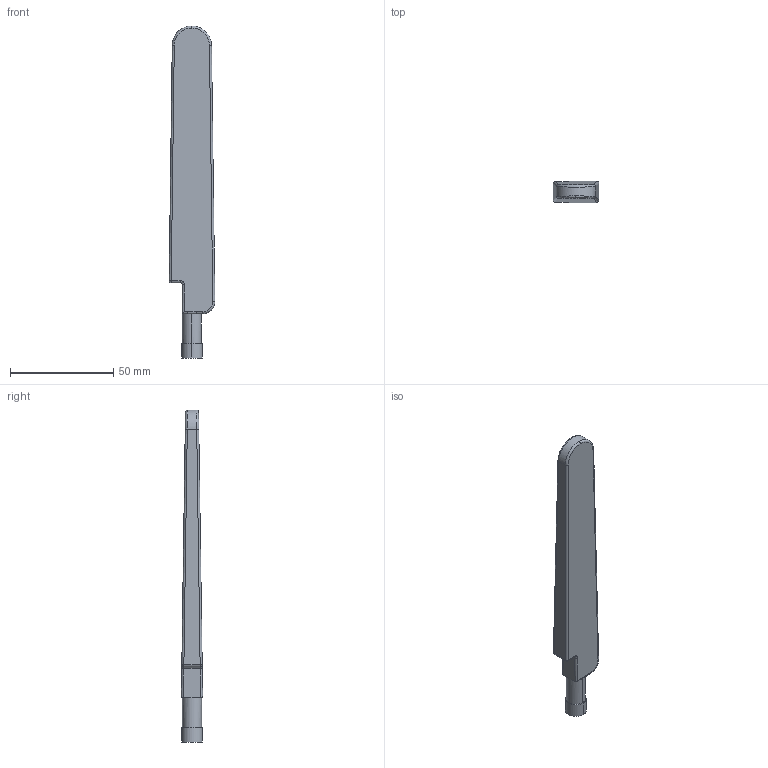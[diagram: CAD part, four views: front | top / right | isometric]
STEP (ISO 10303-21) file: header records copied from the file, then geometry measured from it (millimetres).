
FILE_DESCRIPTION (( 'STEP AP214' ), '1' );
FILE_NAME ('CMS-ANT-BLADE_INT-150MM.STEP', '2024-04-04T12:42:42', ( '' ), ( '' ), 'SwSTEP 2.0', 'SolidWorks 2022', '' );
FILE_SCHEMA (( 'AUTOMOTIVE_DESIGN' ));
Length unit declared in the file: millimetre
Products named in the file (1): CMS-ANT-BLADE_INT-150MM
Bounding box: 22.1 x 10.27 x 160.5 mm (x, y, z)
Volume: 24022.1 mm3; surface area: 8404.6 mm2
Topology: 1 solids, 1 shells, 45 faces, 105 edges, 61 vertices
Faces by surface type: cylinder 23, plane 11, bspline 9, sphere 2
Entity records: 1554 total; most frequent: CARTESIAN_POINT 561, ORIENTED_EDGE 206, DIRECTION 203, EDGE_CURVE 103, AXIS2_PLACEMENT_3D 81, VERTEX_POINT 61, EDGE_LOOP 46, ADVANCED_FACE 45
